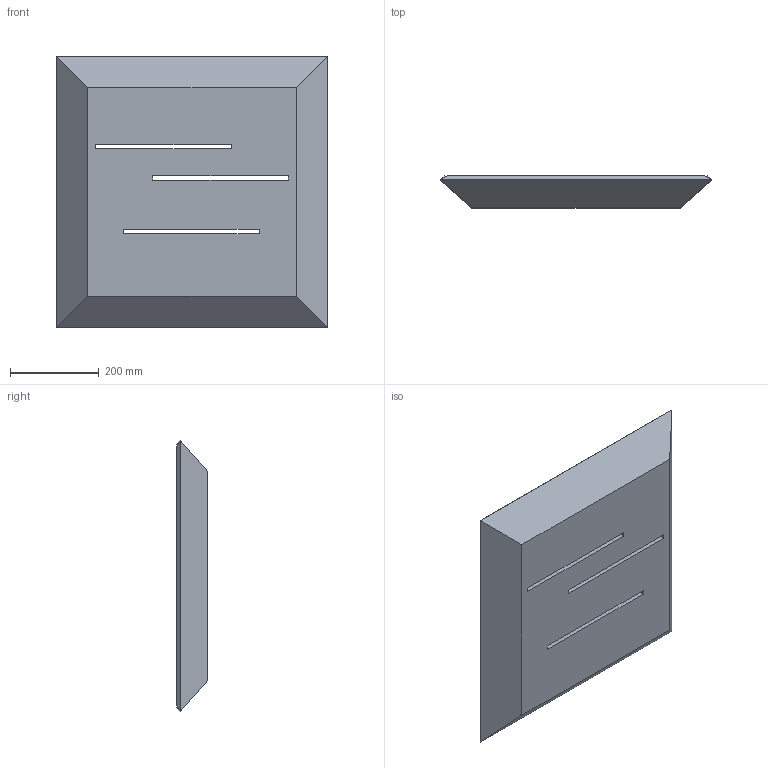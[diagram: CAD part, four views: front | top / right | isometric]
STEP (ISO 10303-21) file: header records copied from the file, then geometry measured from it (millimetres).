
FILE_DESCRIPTION (( 'STEP AP214' ), '1' );
FILE_NAME ('Lineal Lines - Triple - 3 In Deep Assembly - V5.STEP', '2022-08-02T15:24:13', ( '' ), ( '' ), 'SwSTEP 2.0', 'SolidWorks 2020', '' );
FILE_SCHEMA (( 'AUTOMOTIVE_DESIGN' ));
Length unit declared in the file: inch
Products named in the file (3): Lineal Lines - Triple - 3 In Deep Assembly - V5; 3 In Deep Extruded Tile Side - V5; Lineal Lines - Triple - 3 In Deep Top - V5
Assembly tree (5 placements, depth 2):
  Lineal Lines - Triple - 3 In Deep Assembly - V5
    Lineal Lines - Triple - 3 In Deep Top - V5
    3 In Deep Extruded Tile Side - V5  x4
Bounding box: 609.6 x 71.4 x 609.6 mm (x, y, z)
Volume: 4663498.5 mm3; surface area: 902869.1 mm2
Topology: 5 solids, 5 shells, 42 faces, 96 edges, 64 vertices
Faces by surface type: plane 42
Entity records: 864 total; most frequent: CARTESIAN_POINT 132, DIRECTION 124, ORIENTED_EDGE 120, EDGE_CURVE 60, LINE 60, VECTOR 60, VERTEX_POINT 40, AXIS2_PLACEMENT_3D 32
